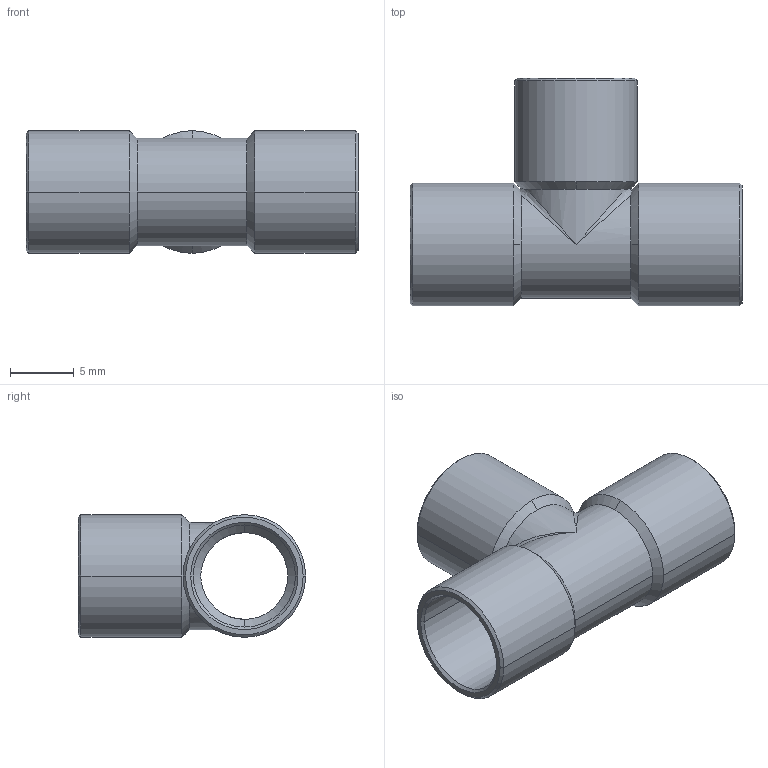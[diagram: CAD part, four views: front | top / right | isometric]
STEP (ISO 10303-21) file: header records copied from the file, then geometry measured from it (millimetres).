
FILE_DESCRIPTION((''),'2;1');
FILE_NAME('P:\Bouwmaten\z-maattekeningen 3D\5000\5130\d\51308.stp','2005-10-19T08:41:55',('Kris'),(''),'Autodesk Inventor 8','Autodesk Inventor 8','');
FILE_SCHEMA(('AUTOMOTIVE_DESIGN { 1 0 10303 214 1 1 1 1 }'));
Length unit declared in the file: millimetre
Products named in the file (1): 51308
Bounding box: 26 x 17.8 x 9.6 mm (x, y, z)
Volume: 736.2 mm3; surface area: 1894 mm2
Topology: 1 solids, 1 shells, 51 faces, 142 edges, 84 vertices
Faces by surface type: cone 24, cylinder 20, bspline 4, plane 3
Entity records: 2087 total; most frequent: CARTESIAN_POINT 746, DIRECTION 310, ORIENTED_EDGE 268, AXIS2_PLACEMENT_3D 136, EDGE_CURVE 134, VERTEX_POINT 84, CIRCLE 72, EDGE_LOOP 54
